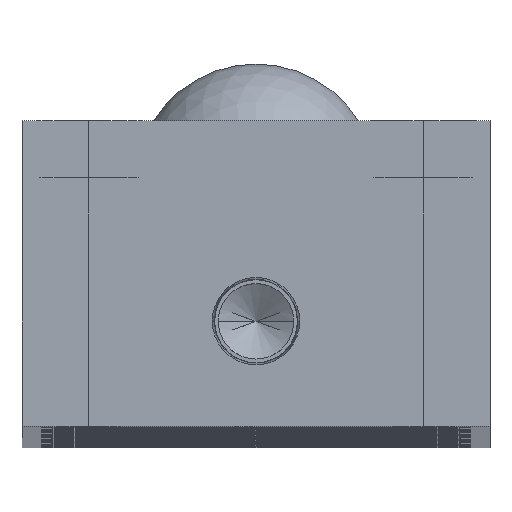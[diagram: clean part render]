
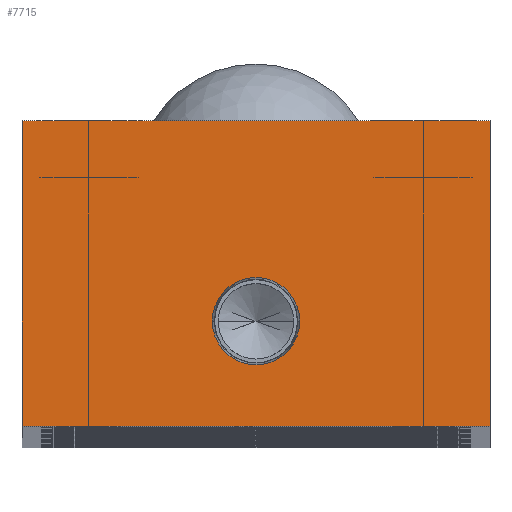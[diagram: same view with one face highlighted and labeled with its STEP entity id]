
A CAD part, top view. The second image highlights one B-rep face of the part: STEP entity #7715.
In plain terms, the highlighted planar face has unit normal (0, 0, 1).
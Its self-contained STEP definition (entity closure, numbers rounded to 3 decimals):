
#372 = CARTESIAN_POINT ( 'NONE',  ( 0., 11., 0. ) ) ;
#657 = EDGE_CURVE ( 'NONE', #21671, #25138, #17952, .T. ) ;
#723 = DIRECTION ( 'NONE',  ( -1., 0., 0. ) ) ;
#888 = EDGE_CURVE ( 'NONE', #28570, #13017, #13804, .T. ) ;
#932 = PLANE ( 'NONE',  #27172 ) ;
#1031 = DIRECTION ( 'NONE',  ( 0., 0., -1. ) ) ;
#1032 = ORIENTED_EDGE ( 'NONE', *, *, #657, .F. ) ;
#1754 = ORIENTED_EDGE ( 'NONE', *, *, #23718, .F. ) ;
#2310 = FACE_OUTER_BOUND ( 'NONE', #13186, .T. ) ;
#2591 = VERTEX_POINT ( 'NONE', #21305 ) ;
#2780 = DIRECTION ( 'NONE',  ( 1., 0., 0. ) ) ;
#4534 = VECTOR ( 'NONE', #23148, 1000. ) ;
#5627 = ORIENTED_EDGE ( 'NONE', *, *, #21058, .T. ) ;
#6534 = CARTESIAN_POINT ( 'NONE',  ( 24.5, 32., 0. ) ) ;
#7501 = VECTOR ( 'NONE', #723, 1000. ) ;
#7515 = CARTESIAN_POINT ( 'NONE',  ( -24.5, 0., 0. ) ) ;
#7715 = ADVANCED_FACE ( 'NONE', ( #28396, #2310 ), #932, .F. ) ;
#9359 = AXIS2_PLACEMENT_3D ( 'NONE', #372, #17041, #2780 ) ;
#10149 = CARTESIAN_POINT ( 'NONE',  ( 0., 11., 0. ) ) ;
#10374 = CARTESIAN_POINT ( 'NONE',  ( 24.5, 0., 0. ) ) ;
#10512 = CARTESIAN_POINT ( 'NONE',  ( 0., 0., 0. ) ) ;
#10913 = ORIENTED_EDGE ( 'NONE', *, *, #888, .T. ) ;
#10923 = ORIENTED_EDGE ( 'NONE', *, *, #27054, .T. ) ;
#11064 = LINE ( 'NONE', #7515, #30091 ) ;
#11293 = DIRECTION ( 'NONE',  ( 0., 1., 0. ) ) ;
#11573 = LINE ( 'NONE', #20739, #4534 ) ;
#11604 = ORIENTED_EDGE ( 'NONE', *, *, #22881, .T. ) ;
#12534 = AXIS2_PLACEMENT_3D ( 'NONE', #10149, #26815, #29475 ) ;
#13017 = VERTEX_POINT ( 'NONE', #13631 ) ;
#13186 = EDGE_LOOP ( 'NONE', ( #10923, #11604, #5627, #10913 ) ) ;
#13558 = VECTOR ( 'NONE', #11293, 1000. ) ;
#13631 = CARTESIAN_POINT ( 'NONE',  ( -24.5, 32., 0. ) ) ;
#13804 = LINE ( 'NONE', #14977, #7501 ) ;
#14461 = CARTESIAN_POINT ( 'NONE',  ( 4.574, 11., 0. ) ) ;
#14977 = CARTESIAN_POINT ( 'NONE',  ( -24.5, 32., 0. ) ) ;
#16386 = CARTESIAN_POINT ( 'NONE',  ( 24.5, 32., 0. ) ) ;
#17041 = DIRECTION ( 'NONE',  ( 0., 0., 1. ) ) ;
#17710 = DIRECTION ( 'NONE',  ( -1., 0., 0. ) ) ;
#17939 = CARTESIAN_POINT ( 'NONE',  ( -4.574, 11., 0. ) ) ;
#17952 = CIRCLE ( 'NONE', #12534, 4.574 ) ;
#19907 = LINE ( 'NONE', #6534, #13558 ) ;
#20739 = CARTESIAN_POINT ( 'NONE',  ( 24.5, 0., 0. ) ) ;
#21058 = EDGE_CURVE ( 'NONE', #28266, #28570, #19907, .T. ) ;
#21305 = CARTESIAN_POINT ( 'NONE',  ( -24.5, 0., 0. ) ) ;
#21583 = CIRCLE ( 'NONE', #9359, 4.574 ) ;
#21671 = VERTEX_POINT ( 'NONE', #14461 ) ;
#21753 = DIRECTION ( 'NONE',  ( 0., -1., 0. ) ) ;
#22881 = EDGE_CURVE ( 'NONE', #2591, #28266, #11573, .T. ) ;
#23148 = DIRECTION ( 'NONE',  ( 1., 0., 0. ) ) ;
#23718 = EDGE_CURVE ( 'NONE', #25138, #21671, #21583, .T. ) ;
#25138 = VERTEX_POINT ( 'NONE', #17939 ) ;
#26815 = DIRECTION ( 'NONE',  ( 0., 0., 1. ) ) ;
#27054 = EDGE_CURVE ( 'NONE', #13017, #2591, #11064, .T. ) ;
#27172 = AXIS2_PLACEMENT_3D ( 'NONE', #10512, #1031, #17710 ) ;
#28266 = VERTEX_POINT ( 'NONE', #10374 ) ;
#28396 = FACE_BOUND ( 'NONE', #29212, .T. ) ;
#28570 = VERTEX_POINT ( 'NONE', #16386 ) ;
#29212 = EDGE_LOOP ( 'NONE', ( #1032, #1754 ) ) ;
#29475 = DIRECTION ( 'NONE',  ( 1., 0., 0. ) ) ;
#30091 = VECTOR ( 'NONE', #21753, 1000. ) ;
